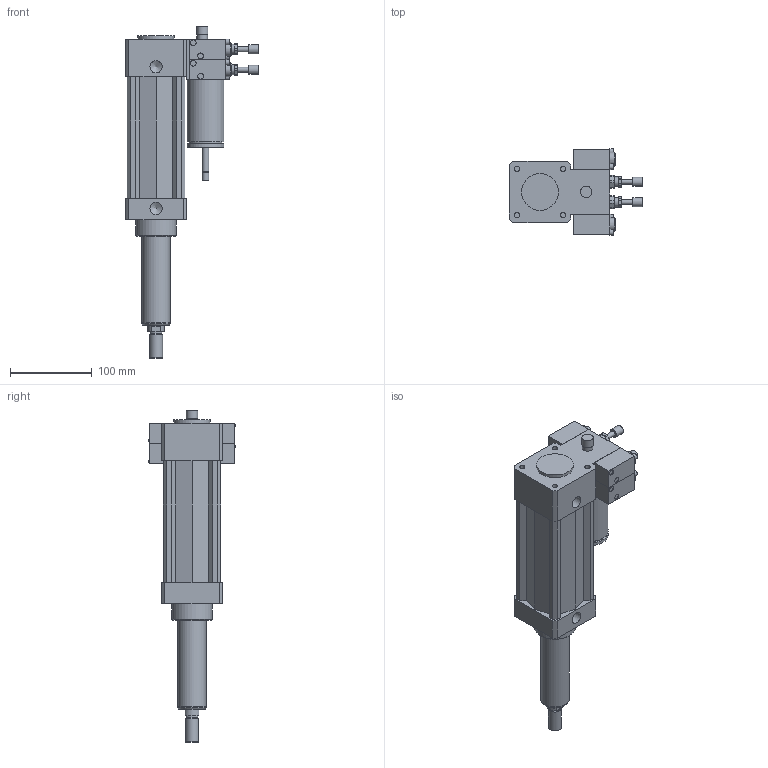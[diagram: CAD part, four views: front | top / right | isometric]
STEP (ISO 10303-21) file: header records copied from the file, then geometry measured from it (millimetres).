
FILE_DESCRIPTION((''),'2;1');
FILE_NAME('I:\Area Tecnica\Disegni\VARIE-3D\Componenti\COP\14##.####.#.#.#\14630100D.F.F.stp','2008-04-23T17:46:19',('airolcr1'),(''),'Autodesk Inventor 2008','Autodesk Inventor 2008','');
FILE_SCHEMA(('AUTOMOTIVE_DESIGN { 1 0 10303 214 1 1 1 1 }'));
Length unit declared in the file: millimetre
Products named in the file (9): 14630100D.F.F; STELO Ø63 C 100; VAL SK NA IN; VAL SK NA OUT; VAL ST NA IN; VAL ST NA OUT; REGOLATORE DR IN; REGOLATORE DR OUT
Assembly tree (8 placements, depth 2):
  14630100D.F.F
    14630100D.F.F
    STELO Ø63 C 100
    VAL SK NA IN
    VAL SK NA OUT
    VAL ST NA IN
    VAL ST NA OUT
    REGOLATORE DR IN
    REGOLATORE DR OUT
Bounding box: 163 x 105.61 x 406 mm (x, y, z)
Volume: 1596916.9 mm3; surface area: 161029.4 mm2
Topology: 8 solids, 8 shells, 308 faces, 646 edges, 417 vertices
Faces by surface type: plane 171, cylinder 91, bspline 34, cone 11, torus 1
Full cylindrical faces by diameter (mm): 2 x2, 4 x16, 6 x2, 7 x16, 8 x2, 11 x2, 12 x2, 13 x1, 14 x1, 14.5 x1, 16 x1, 17 x4, 20 x1, 34.7 x1, 35 x2, 41 x1, 45 x3, 50 x1
Entity records: 8314 total; most frequent: CARTESIAN_POINT 1653, DIRECTION 1362, ORIENTED_EDGE 1084, EDGE_CURVE 542, AXIS2_PLACEMENT_3D 529, EDGE_LOOP 462, VERTEX_POINT 404, FACE_OUTER_BOUND 308
